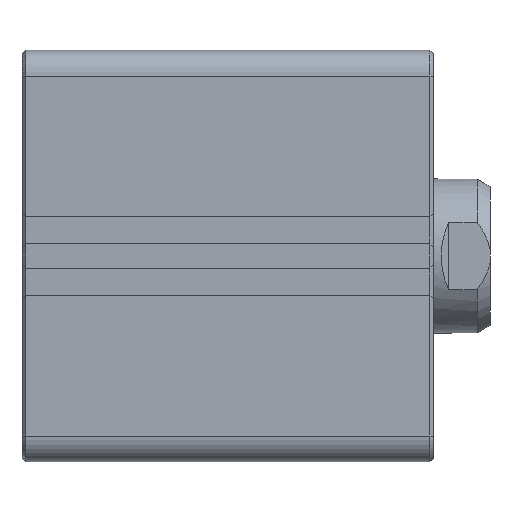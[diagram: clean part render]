
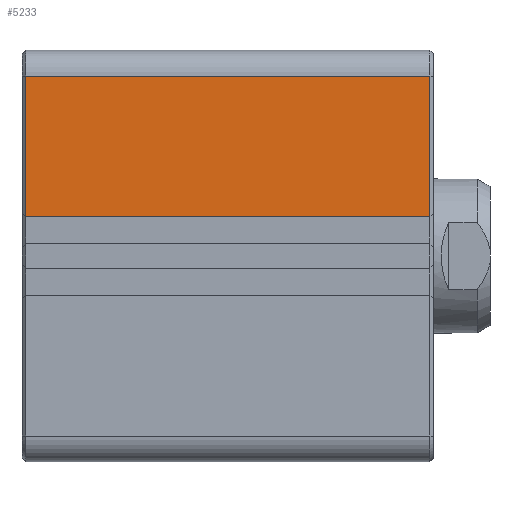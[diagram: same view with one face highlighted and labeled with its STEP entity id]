
A CAD part, left-side view. The second image highlights one B-rep face of the part: STEP entity #5233.
In plain terms, the highlighted planar face has unit normal (-1, 0, 0).
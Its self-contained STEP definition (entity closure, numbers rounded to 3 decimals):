
#110=LINE('',#7205,#500);
#111=LINE('',#7209,#501);
#112=LINE('',#7211,#502);
#113=LINE('',#7213,#503);
#500=VECTOR('',#5921,1000.);
#501=VECTOR('',#5926,1000.);
#502=VECTOR('',#5927,1000.);
#503=VECTOR('',#5928,1000.);
#1079=ORIENTED_EDGE('',*,*,#2013,.F.);
#1080=ORIENTED_EDGE('',*,*,#2015,.T.);
#1081=ORIENTED_EDGE('',*,*,#2016,.T.);
#1082=ORIENTED_EDGE('',*,*,#2017,.T.);
#2013=EDGE_CURVE('',#2490,#2491,#110,.T.);
#2015=EDGE_CURVE('',#2490,#2492,#111,.T.);
#2016=EDGE_CURVE('',#2492,#2493,#112,.T.);
#2017=EDGE_CURVE('',#2493,#2491,#113,.T.);
#2490=VERTEX_POINT('',#7204);
#2491=VERTEX_POINT('',#7206);
#2492=VERTEX_POINT('',#7210);
#2493=VERTEX_POINT('',#7212);
#2861=EDGE_LOOP('',(#1079,#1080,#1081,#1082));
#3147=FACE_BOUND('',#2861,.T.);
#3383=PLANE('',#5502);
#5233=ADVANCED_FACE('',(#3147),#3383,.T.);
#5502=AXIS2_PLACEMENT_3D('',#7208,#5924,#5925);
#5921=DIRECTION('',(0.,-1.,0.));
#5924=DIRECTION('',(-1.,0.,0.));
#5925=DIRECTION('',(0.,0.,1.));
#5926=DIRECTION('',(0.,0.,-1.));
#5927=DIRECTION('',(0.,-1.,0.));
#5928=DIRECTION('',(0.,0.,1.));
#7204=CARTESIAN_POINT('',(-40.,79.3,35.));
#7205=CARTESIAN_POINT('',(-40.,70.,35.));
#7206=CARTESIAN_POINT('',(-40.,0.7,35.));
#7208=CARTESIAN_POINT('',(-40.,70.,35.));
#7209=CARTESIAN_POINT('',(-40.,79.3,35.));
#7210=CARTESIAN_POINT('',(-40.,79.3,7.65));
#7211=CARTESIAN_POINT('',(-40.,70.,7.65));
#7212=CARTESIAN_POINT('',(-40.,0.7,7.65));
#7213=CARTESIAN_POINT('',(-40.,0.7,35.));
